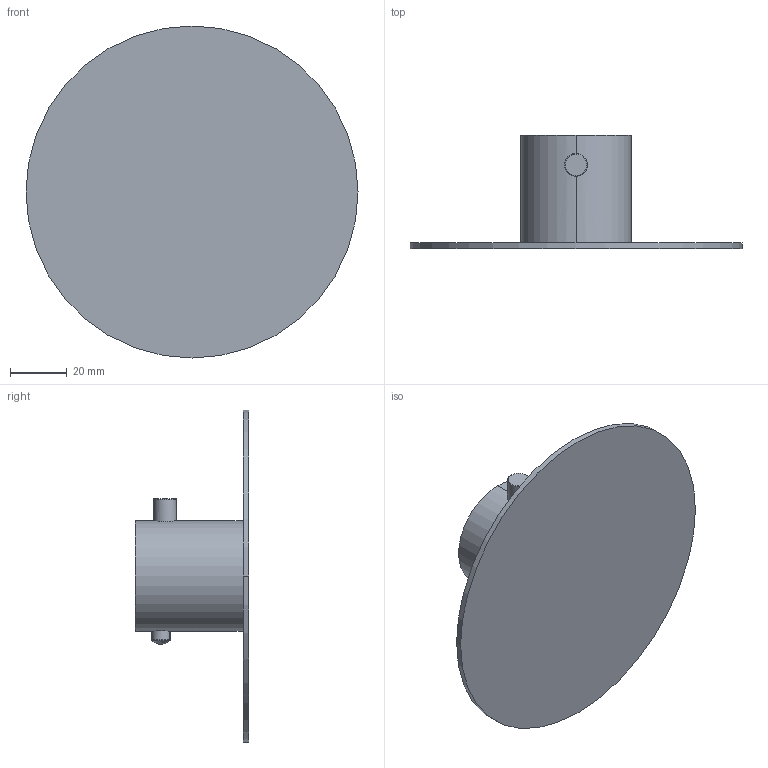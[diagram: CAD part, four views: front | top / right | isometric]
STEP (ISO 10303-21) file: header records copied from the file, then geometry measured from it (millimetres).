
FILE_DESCRIPTION (( 'STEP AP214' ), '1' );
FILE_NAME ('96261110 x architetti.STEP', '2025-03-10T15:55:01', ( '' ), ( '' ), 'SwSTEP 2.0', 'SolidWorks 2020', '' );
FILE_SCHEMA (( 'AUTOMOTIVE_DESIGN' ));
Length unit declared in the file: millimetre
Products named in the file (1): 96261110 x architetti
Bounding box: 117 x 40 x 117 mm (x, y, z)
Volume: 67346.4 mm3; surface area: 27273.3 mm2
Topology: 1 solids, 2 shells, 22 faces, 50 edges, 31 vertices
Faces by surface type: cylinder 11, plane 4, bspline 3, torus 2, cone 2
Entity records: 1057 total; most frequent: CARTESIAN_POINT 349, DIRECTION 102, ORIENTED_EDGE 96, EDGE_CURVE 48, AXIS2_PLACEMENT_3D 44, VERTEX_POINT 31, CIRCLE 24, EDGE_LOOP 23
